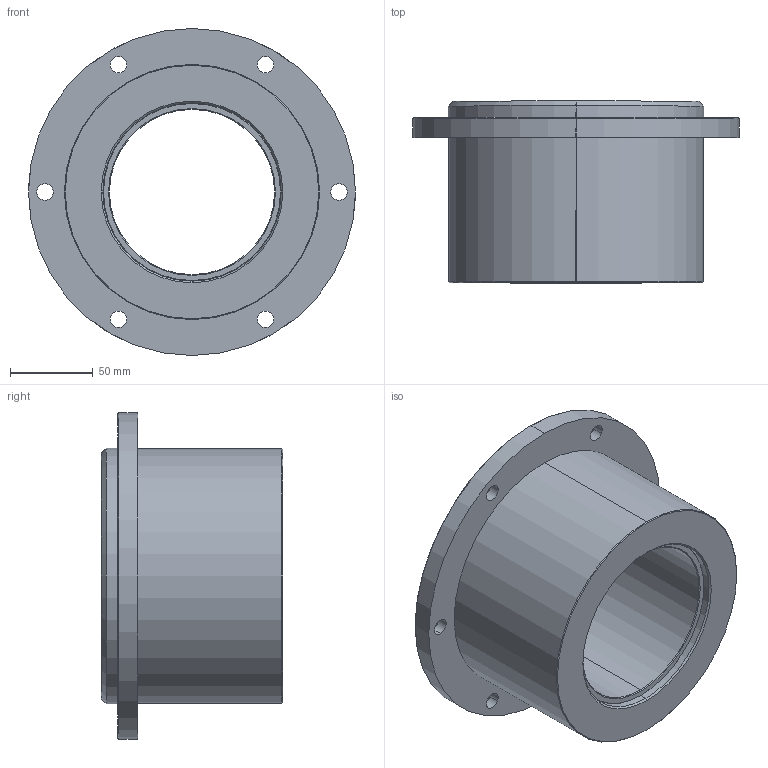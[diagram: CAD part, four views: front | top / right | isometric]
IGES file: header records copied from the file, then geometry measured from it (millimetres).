
Start section: 3D InterOp IGES (Version 20 0 1), Spatial Corp. Copyright (c) 1999-2007.
Global section: file name: 10.13.10.igs; native system: Spatial Corp.; preprocessor: 3D InterOp GENERIC/IGES 3.0; author: Noname; organization: Noname; date: 20111110.165224; units: metre
Bounding box: 198 x 110 x 198 mm (x, y, z)
Surface area: 211917.3 mm2 (no closed solid volume)
Topology: 0 solids, 0 shells, 91 faces, 1702 edges, 2932 vertices
Faces by surface type: revolution 77, extrusion 14
